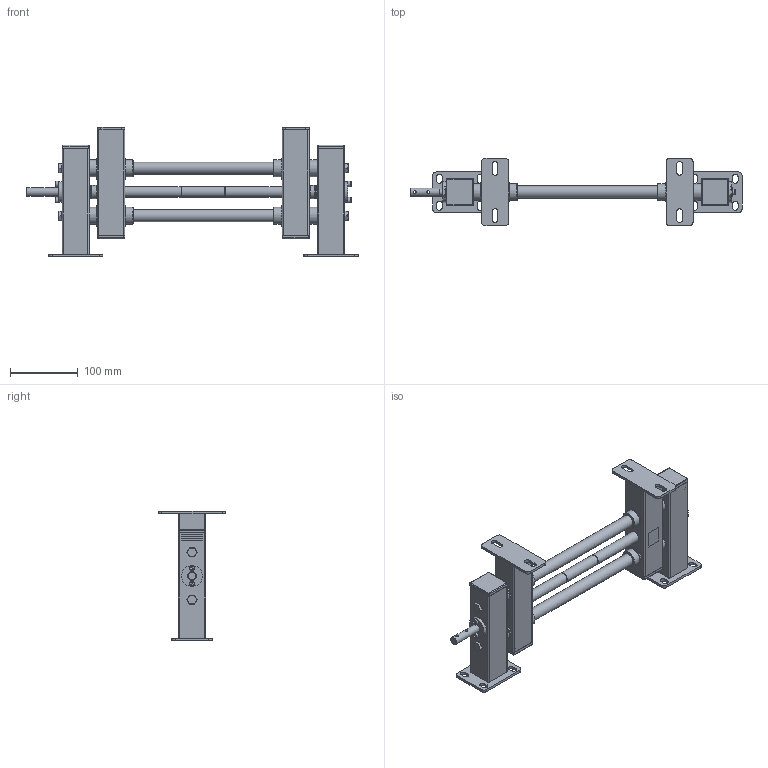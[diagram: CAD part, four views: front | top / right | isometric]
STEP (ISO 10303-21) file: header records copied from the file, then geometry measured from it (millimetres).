
FILE_DESCRIPTION(/* description */ ('SIDE ADJUSTMENT FOR SIDE GRIP CONVEYOR'),/* implementation_level */ '2;1');
FILE_NAME(/* name */ '\\carryline.intra\privat\users\mathias\Desktop\Tillfälliga filer\100-1400.stp',/* time_stamp */ '2018-11-20T10:30:23+01:00',/* author */ ('ML'),/* organization */ ('CARRYLINE'),/* preprocessor_version */ 'ST-DEVELOPER v17',/* originating_system */ 'Autodesk Inventor 2018',/* authorisation */ '');
FILE_SCHEMA (('AUTOMOTIVE_DESIGN { 1 0 10303 214 3 1 1 }'));
Length unit declared in the file: millimetre
Products named in the file (20): 100-1400-0-150; 15975_3; 15975_5; 15975_1; 15975_7; 15975_10; 15957_9; 15975_8; 15975_2; 15975_6; 15975_4; 5590-25; 5510-516; 15975_11; ISO 4026 - M5 x 5; 15975_18; 15975_13; 17078; 500-2010; 5500-816
Assembly tree (51 placements, depth 3):
  100-1400-0-150
    15975_4  x4
    15975_3  x2
    15975_5  x2
      15975_1
      15975_7
    15975_8  x2
      15975_2
      15975_6
    15975_10
    15957_9
    5590-25  x8
    5510-516  x4
    15975_11  x2
    ISO 4026 - M5 x 5  x2
    15975_13  x2
    15975_18
    17078  x8
    500-2010  x4
    5500-816  x4
Bounding box: 491.5 x 100 x 192 mm (x, y, z)
Volume: 711425.9 mm3; surface area: 430710.9 mm2
Topology: 55 solids, 55 shells, 1077 faces, 2733 edges, 1794 vertices
Faces by surface type: plane 592, cylinder 261, cone 200, sphere 16, torus 8
Full cylindrical faces by diameter (mm): 2 x16, 4 x2, 4.134 x6, 5 x10, 6.647 x4, 8 x4, 8.5 x8, 11.63 x4, 12 x4, 12.3 x2, 13.835 x2, 16 x3, 18 x24, 19 x4, 20 x18, 23.9 x8, 25 x20, 31 x2
Entity records: 11721 total; most frequent: CARTESIAN_POINT 2263, DIRECTION 1893, ORIENTED_EDGE 1748, EDGE_CURVE 874, AXIS2_PLACEMENT_3D 702, VERTEX_POINT 583, LINE 489, VECTOR 489
